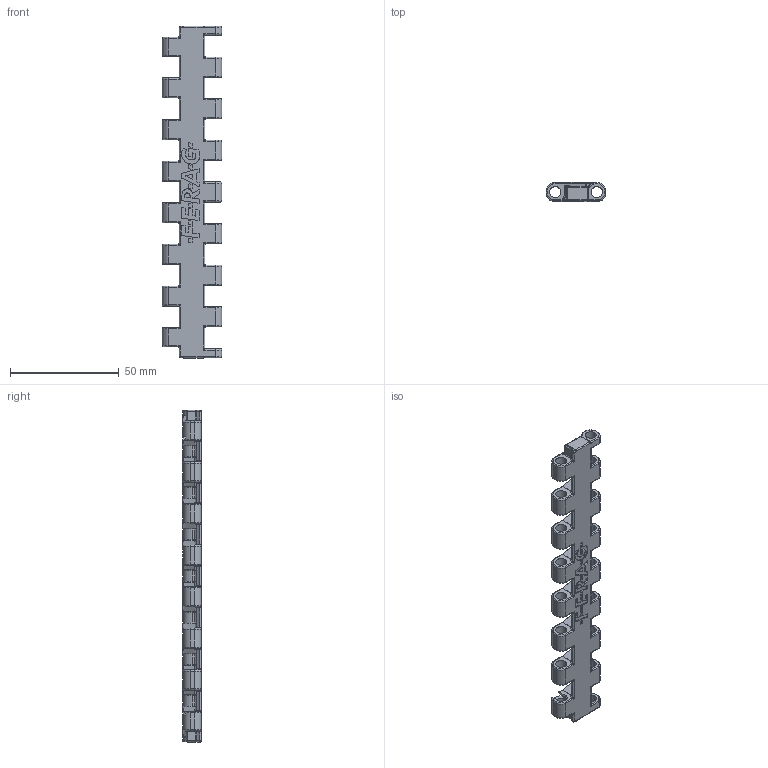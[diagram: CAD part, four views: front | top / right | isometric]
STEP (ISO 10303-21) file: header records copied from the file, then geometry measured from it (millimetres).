
FILE_DESCRIPTION((''),'2;1');
FILE_NAME('P1258','2013-01-03T',('jas'),(''),'PRO/ENGINEER BY PARAMETRIC TECHNOLOGY CORPORATION, 2012360','PRO/ENGINEER BY PARAMETRIC TECHNOLOGY CORPORATION, 2012360','');
FILE_SCHEMA(('AUTOMOTIVE_DESIGN { 1 0 10303 214 1 1 1 1 }'));
Products named in the file (1): P1258
Bounding box: 27.53 x 8.5 x 152.4 mm (x, y, z)
Volume: 11705.8 mm3; surface area: 13260.1 mm2
Topology: 1 solids, 1 shells, 1580 faces, 3828 edges, 2272 vertices
Faces by surface type: cylinder 606, plane 466, torus 250, bspline 172, sphere 84, cone 2
Entity records: 60217 total; most frequent: CARTESIAN_POINT 23967, ORIENTED_EDGE 7656, DIRECTION 7470, EDGE_CURVE 3828, AXIS2_PLACEMENT_3D 2862, VERTEX_POINT 2272, VECTOR 1746, LINE 1746
